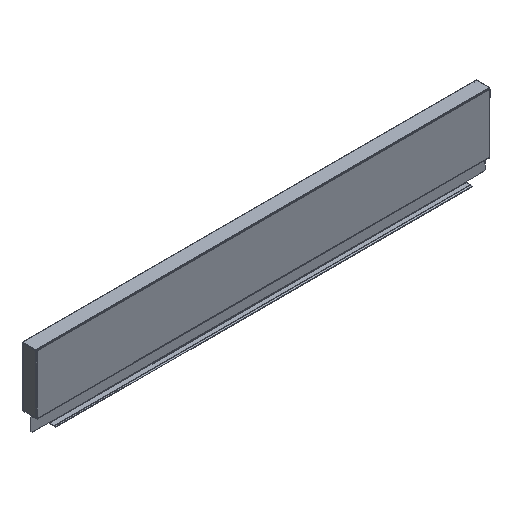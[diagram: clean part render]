
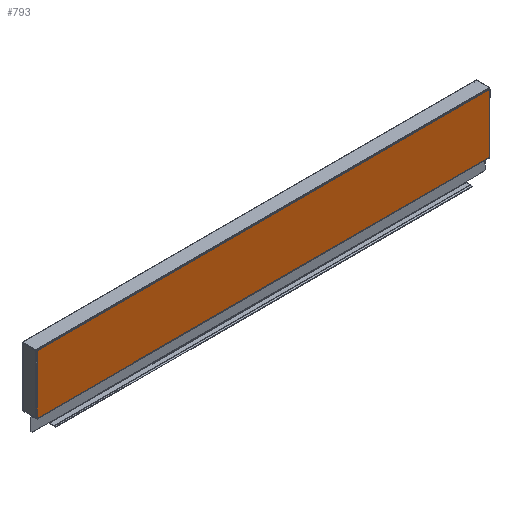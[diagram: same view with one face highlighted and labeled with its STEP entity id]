
A CAD part, isometric view. The second image highlights one B-rep face of the part: STEP entity #793.
In plain terms, the highlighted planar face has unit normal (0, -1, 0).
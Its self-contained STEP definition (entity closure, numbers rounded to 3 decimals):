
#203 = VERTEX_POINT ( 'NONE', #437 ) ;
#207 = VERTEX_POINT ( 'NONE', #436 ) ;
#211 = VERTEX_POINT ( 'NONE', #435 ) ;
#217 = VERTEX_POINT ( 'NONE', #434 ) ;
#238 = VERTEX_POINT ( 'NONE', #430 ) ;
#246 = VERTEX_POINT ( 'NONE', #428 ) ;
#278 = VERTEX_POINT ( 'NONE', #418 ) ;
#332 = VERTEX_POINT ( 'NONE', #404 ) ;
#337 = VERTEX_POINT ( 'NONE', #403 ) ;
#344 = VERTEX_POINT ( 'NONE', #400 ) ;
#400 = CARTESIAN_POINT ( 'NONE',  ( -253.5, -6., 17.5 ) ) ;
#403 = CARTESIAN_POINT ( 'NONE',  ( 254., -6., 82.5 ) ) ;
#404 = CARTESIAN_POINT ( 'NONE',  ( 253.5, -6., 17. ) ) ;
#418 = CARTESIAN_POINT ( 'NONE',  ( -254., -6., 83. ) ) ;
#428 = CARTESIAN_POINT ( 'NONE',  ( 253.5, -6., 17.5 ) ) ;
#430 = CARTESIAN_POINT ( 'NONE',  ( 254., -6., 83. ) ) ;
#434 = CARTESIAN_POINT ( 'NONE',  ( 254., -6., 17.5 ) ) ;
#435 = CARTESIAN_POINT ( 'NONE',  ( -253.5, -6., 17. ) ) ;
#436 = CARTESIAN_POINT ( 'NONE',  ( -254., -6., 82.5 ) ) ;
#437 = CARTESIAN_POINT ( 'NONE',  ( -254., -6., 17.5 ) ) ;
#669 = AXIS2_PLACEMENT_3D ( 'NONE', #1567, #1565, #1564 ) ;
#793 = ADVANCED_FACE ( 'NONE', ( #2136 ), #1569, .T. ) ;
#983 = EDGE_LOOP ( 'NONE', ( #1977, #1976, #1975, #1974, #1973, #1972, #1971, #1970, #1969, #1968 ) ) ;
#1127 = DIRECTION ( 'NONE',  ( 0., 0., -1. ) ) ;
#1128 = CARTESIAN_POINT ( 'NONE',  ( -254., -6., 101.385 ) ) ;
#1129 = DIRECTION ( 'NONE',  ( 1., 0., 0. ) ) ;
#1130 = CARTESIAN_POINT ( 'NONE',  ( -255., -6., 83. ) ) ;
#1132 = DIRECTION ( 'NONE',  ( 0., 0., -1. ) ) ;
#1134 = CARTESIAN_POINT ( 'NONE',  ( 254., -6., 101.385 ) ) ;
#1135 = DIRECTION ( 'NONE',  ( 0., 0., -1. ) ) ;
#1136 = CARTESIAN_POINT ( 'NONE',  ( 254., -6., 101.385 ) ) ;
#1138 = DIRECTION ( 'NONE',  ( 1., 0., 0. ) ) ;
#1140 = CARTESIAN_POINT ( 'NONE',  ( 253.5, -6., 17.5 ) ) ;
#1141 = DIRECTION ( 'NONE',  ( 0., 0., 1. ) ) ;
#1142 = CARTESIAN_POINT ( 'NONE',  ( 253.5, -6., 15.3 ) ) ;
#1144 = DIRECTION ( 'NONE',  ( 1., 0., 0. ) ) ;
#1145 = CARTESIAN_POINT ( 'NONE',  ( -255., -6., 17. ) ) ;
#1147 = DIRECTION ( 'NONE',  ( 0., 0., -1. ) ) ;
#1148 = CARTESIAN_POINT ( 'NONE',  ( -253.5, -6., 17.5 ) ) ;
#1150 = DIRECTION ( 'NONE',  ( 1., 0., 0. ) ) ;
#1151 = CARTESIAN_POINT ( 'NONE',  ( -255., -6., 17.5 ) ) ;
#1162 = DIRECTION ( 'NONE',  ( 0., 0., -1. ) ) ;
#1164 = CARTESIAN_POINT ( 'NONE',  ( -254., -6., 101.385 ) ) ;
#1564 = DIRECTION ( 'NONE',  ( 1., 0., 0. ) ) ;
#1565 = DIRECTION ( 'NONE',  ( 0., -1., 0. ) ) ;
#1567 = CARTESIAN_POINT ( 'NONE',  ( -255., -6., 17. ) ) ;
#1569 = PLANE ( 'NONE',  #669 ) ;
#1633 = EDGE_CURVE ( 'NONE', #207, #203, #2329, .T. ) ;
#1637 = EDGE_CURVE ( 'NONE', #203, #344, #2336, .T. ) ;
#1638 = EDGE_CURVE ( 'NONE', #344, #211, #2338, .T. ) ;
#1639 = EDGE_CURVE ( 'NONE', #211, #332, #2340, .T. ) ;
#1640 = EDGE_CURVE ( 'NONE', #332, #246, #2342, .T. ) ;
#1641 = EDGE_CURVE ( 'NONE', #246, #217, #2344, .T. ) ;
#1642 = EDGE_CURVE ( 'NONE', #337, #217, #2346, .T. ) ;
#1643 = EDGE_CURVE ( 'NONE', #238, #337, #2348, .T. ) ;
#1644 = EDGE_CURVE ( 'NONE', #278, #238, #2350, .T. ) ;
#1645 = EDGE_CURVE ( 'NONE', #278, #207, #2352, .T. ) ;
#1968 = ORIENTED_EDGE ( 'NONE', *, *, #1645, .T. ) ;
#1969 = ORIENTED_EDGE ( 'NONE', *, *, #1644, .F. ) ;
#1970 = ORIENTED_EDGE ( 'NONE', *, *, #1643, .F. ) ;
#1971 = ORIENTED_EDGE ( 'NONE', *, *, #1642, .F. ) ;
#1972 = ORIENTED_EDGE ( 'NONE', *, *, #1641, .T. ) ;
#1973 = ORIENTED_EDGE ( 'NONE', *, *, #1640, .T. ) ;
#1974 = ORIENTED_EDGE ( 'NONE', *, *, #1639, .T. ) ;
#1975 = ORIENTED_EDGE ( 'NONE', *, *, #1638, .T. ) ;
#1976 = ORIENTED_EDGE ( 'NONE', *, *, #1637, .T. ) ;
#1977 = ORIENTED_EDGE ( 'NONE', *, *, #1633, .T. ) ;
#2136 = FACE_OUTER_BOUND ( 'NONE', #983, .T. ) ;
#2329 = LINE ( 'NONE', #1164, #2330 ) ;
#2330 = VECTOR ( 'NONE', #1162, 1000. ) ;
#2336 = LINE ( 'NONE', #1151, #2337 ) ;
#2337 = VECTOR ( 'NONE', #1150, 1000. ) ;
#2338 = LINE ( 'NONE', #1148, #2339 ) ;
#2339 = VECTOR ( 'NONE', #1147, 1000. ) ;
#2340 = LINE ( 'NONE', #1145, #2341 ) ;
#2341 = VECTOR ( 'NONE', #1144, 1000. ) ;
#2342 = LINE ( 'NONE', #1142, #2343 ) ;
#2343 = VECTOR ( 'NONE', #1141, 1000. ) ;
#2344 = LINE ( 'NONE', #1140, #2345 ) ;
#2345 = VECTOR ( 'NONE', #1138, 1000. ) ;
#2346 = LINE ( 'NONE', #1136, #2347 ) ;
#2347 = VECTOR ( 'NONE', #1135, 1000. ) ;
#2348 = LINE ( 'NONE', #1134, #2349 ) ;
#2349 = VECTOR ( 'NONE', #1132, 1000. ) ;
#2350 = LINE ( 'NONE', #1130, #2351 ) ;
#2351 = VECTOR ( 'NONE', #1129, 1000. ) ;
#2352 = LINE ( 'NONE', #1128, #2353 ) ;
#2353 = VECTOR ( 'NONE', #1127, 1000. ) ;
